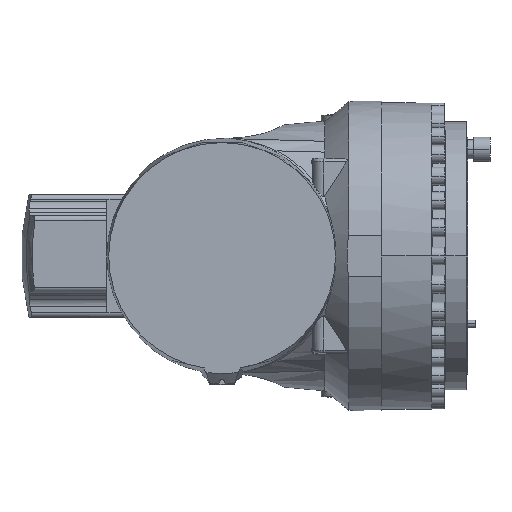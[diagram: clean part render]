
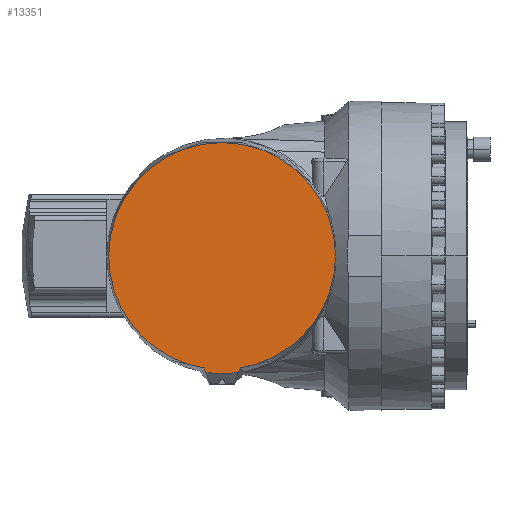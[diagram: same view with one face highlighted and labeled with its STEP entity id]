
A CAD part, front view. The second image highlights one B-rep face of the part: STEP entity #13351.
In plain terms, the highlighted planar face has unit normal (0, -1, 0).
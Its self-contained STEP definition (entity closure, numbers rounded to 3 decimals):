
#515 = DIRECTION ( 'NONE',  ( 0., 1., 0. ) ) ;
#1343 = VERTEX_POINT ( 'NONE', #5732 ) ;
#2182 = CARTESIAN_POINT ( 'NONE',  ( 1914.168, -162.5, 2771.302 ) ) ;
#2384 = CIRCLE ( 'NONE', #6505, 120.236 ) ;
#2527 = DIRECTION ( 'NONE',  ( 0., 1., 0. ) ) ;
#2608 = VECTOR ( 'NONE', #12385, 1000. ) ;
#2897 = CIRCLE ( 'NONE', #3027, 120.236 ) ;
#2954 = CARTESIAN_POINT ( 'NONE',  ( 1895., -162.5, 2890. ) ) ;
#3027 = AXIS2_PLACEMENT_3D ( 'NONE', #14576, #2527, #16632 ) ;
#3918 = VERTEX_POINT ( 'NONE', #19941 ) ;
#4297 = DIRECTION ( 'NONE',  ( 0., 0., -1. ) ) ;
#4819 = DIRECTION ( 'NONE',  ( 0., 1., 0. ) ) ;
#4903 = DIRECTION ( 'NONE',  ( 0., 0., 1. ) ) ;
#5085 = CIRCLE ( 'NONE', #24919, 124.668 ) ;
#5644 = CARTESIAN_POINT ( 'NONE',  ( 1877.78, -162.5, 2766.527 ) ) ;
#5732 = CARTESIAN_POINT ( 'NONE',  ( 1875.832, -162.5, 2771.302 ) ) ;
#6505 = AXIS2_PLACEMENT_3D ( 'NONE', #12508, #515, #14613 ) ;
#7158 = ORIENTED_EDGE ( 'NONE', *, *, #15619, .F. ) ;
#7923 = VECTOR ( 'NONE', #12438, 1000. ) ;
#8598 = VERTEX_POINT ( 'NONE', #17588 ) ;
#8667 = ORIENTED_EDGE ( 'NONE', *, *, #9917, .F. ) ;
#9340 = VERTEX_POINT ( 'NONE', #2182 ) ;
#9644 = ORIENTED_EDGE ( 'NONE', *, *, #20424, .T. ) ;
#9917 = EDGE_CURVE ( 'NONE', #9340, #14796, #17600, .T. ) ;
#10887 = EDGE_LOOP ( 'NONE', ( #7158, #9644, #11796, #8667, #26239, #15733 ) ) ;
#11796 = ORIENTED_EDGE ( 'NONE', *, *, #12867, .T. ) ;
#11955 = AXIS2_PLACEMENT_3D ( 'NONE', #16974, #4819, #19009 ) ;
#12011 = EDGE_CURVE ( 'NONE', #8598, #3918, #2384, .T. ) ;
#12256 = CARTESIAN_POINT ( 'NONE',  ( 1907.718, -162.5, 2755.491 ) ) ;
#12385 = DIRECTION ( 'NONE',  ( 0.378, 0., -0.926 ) ) ;
#12438 = DIRECTION ( 'NONE',  ( -0.378, 0., -0.926 ) ) ;
#12508 = CARTESIAN_POINT ( 'NONE',  ( 1895., -162.5, 2890. ) ) ;
#12867 = EDGE_CURVE ( 'NONE', #13158, #14796, #5085, .T. ) ;
#13158 = VERTEX_POINT ( 'NONE', #5644 ) ;
#13351 = ADVANCED_FACE ( 'NONE', ( #23897 ), #24579, .T. ) ;
#14367 = CARTESIAN_POINT ( 'NONE',  ( 1895., -162.5, 3005.268 ) ) ;
#14576 = CARTESIAN_POINT ( 'NONE',  ( 1895., -162.5, 2890. ) ) ;
#14613 = DIRECTION ( 'NONE',  ( -1., 0., 0. ) ) ;
#14796 = VERTEX_POINT ( 'NONE', #21024 ) ;
#15619 = EDGE_CURVE ( 'NONE', #1343, #8598, #2897, .T. ) ;
#15733 = ORIENTED_EDGE ( 'NONE', *, *, #12011, .F. ) ;
#16429 = DIRECTION ( 'NONE',  ( 0., -1., 0. ) ) ;
#16454 = CARTESIAN_POINT ( 'NONE',  ( 1875.832, -162.5, 2771.302 ) ) ;
#16632 = DIRECTION ( 'NONE',  ( -1., 0., 0. ) ) ;
#16679 = AXIS2_PLACEMENT_3D ( 'NONE', #14367, #16429, #4297 ) ;
#16974 = CARTESIAN_POINT ( 'NONE',  ( 1895., -162.5, 2890. ) ) ;
#17074 = DIRECTION ( 'NONE',  ( 0., -1., 0. ) ) ;
#17588 = CARTESIAN_POINT ( 'NONE',  ( 1774.764, -162.5, 2890. ) ) ;
#17600 = LINE ( 'NONE', #12256, #7923 ) ;
#19009 = DIRECTION ( 'NONE',  ( -1., 0., 0. ) ) ;
#19941 = CARTESIAN_POINT ( 'NONE',  ( 2015.236, -162.5, 2890. ) ) ;
#20424 = EDGE_CURVE ( 'NONE', #1343, #13158, #25415, .T. ) ;
#21024 = CARTESIAN_POINT ( 'NONE',  ( 1912.22, -162.5, 2766.527 ) ) ;
#22795 = CIRCLE ( 'NONE', #11955, 120.236 ) ;
#23897 = FACE_OUTER_BOUND ( 'NONE', #10887, .T. ) ;
#24579 = PLANE ( 'NONE',  #16679 ) ;
#24919 = AXIS2_PLACEMENT_3D ( 'NONE', #2954, #17074, #4903 ) ;
#25415 = LINE ( 'NONE', #16454, #2608 ) ;
#25495 = EDGE_CURVE ( 'NONE', #3918, #9340, #22795, .T. ) ;
#26239 = ORIENTED_EDGE ( 'NONE', *, *, #25495, .F. ) ;
